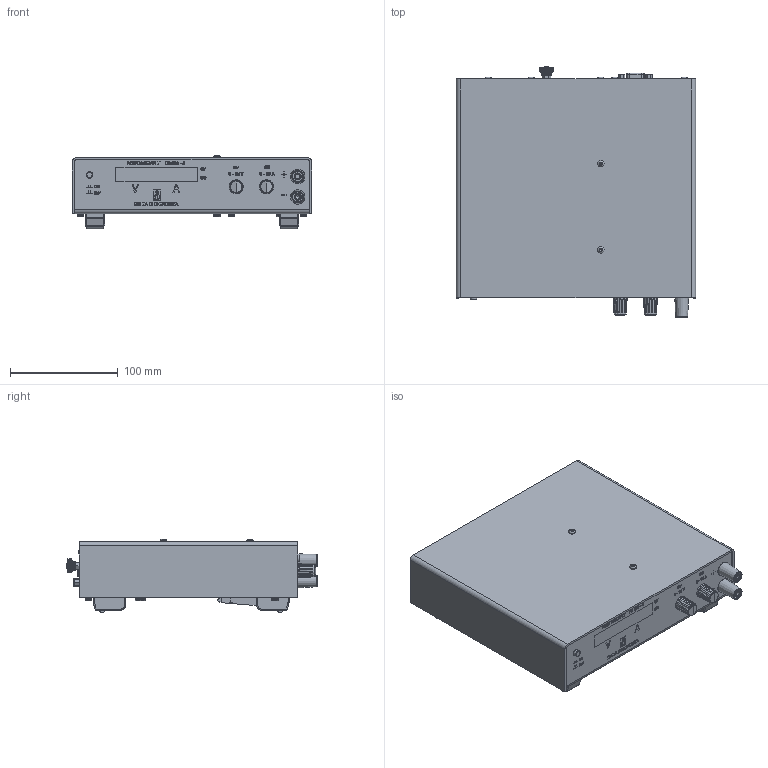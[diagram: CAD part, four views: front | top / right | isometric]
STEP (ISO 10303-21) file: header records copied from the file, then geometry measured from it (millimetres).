
FILE_DESCRIPTION(/* description */ (''),/* implementation_level */ '2;1');
FILE_NAME(/* name */ 'A:\Data\ES150\option\P279\step file\ES150-P279.stp',/* time_stamp */ '2021-03-12T16:22:55+01:00',/* author */ ('Delta'),/* organization */ (''),/* preprocessor_version */ 'ST-DEVELOPER v17.2',/* originating_system */ 'Autodesk Inventor 2019',/* authorisation */ '');
FILE_SCHEMA (('AUTOMOTIVE_DESIGN { 1 0 10303 214 3 1 1 }'));
Products named in the file (1): assembly ES150-P279_Shrinkwrap_1
Bounding box: 222 x 232.5 x 68.2 mm (x, y, z)
Volume: 2316815.1 mm3; surface area: 167187.2 mm2
Topology: 1 solids, 1 shells, 3433 faces, 8185 edges, 5251 vertices
Faces by surface type: plane 1855, cylinder 740, bspline 416, cone 256, torus 98, sphere 68
Full cylindrical faces by diameter (mm): 1.1 x9, 2.156 x2, 3.4 x2, 3.5 x362, 4 x2, 4.2 x2, 4.3 x2, 4.5 x2, 4.75 x4, 5 x1, 5.8 x1, 6 x34, 6.2 x2, 6.5 x2, 7.8 x2, 8 x6, 8.3 x2, 8.8 x2, 9 x6, 9.3 x2, 10 x2, 10.5 x1, 10.7 x2, 13.5 x6
Entity records: 108872 total; most frequent: CARTESIAN_POINT 28439, ORIENTED_EDGE 16324, DIRECTION 15316, EDGE_CURVE 8162, AXIS2_PLACEMENT_3D 5555, VERTEX_POINT 5253, LINE 4206, VECTOR 4206
